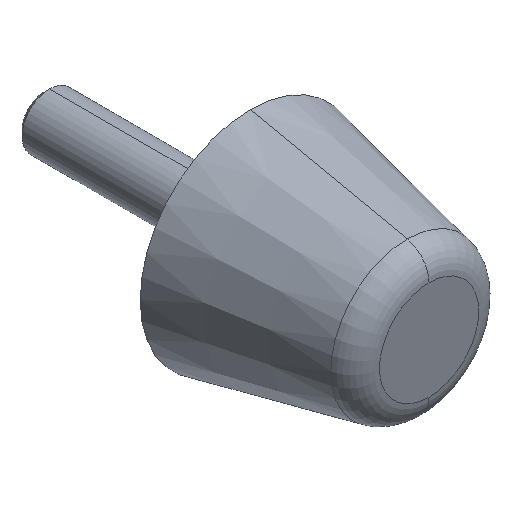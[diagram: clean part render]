
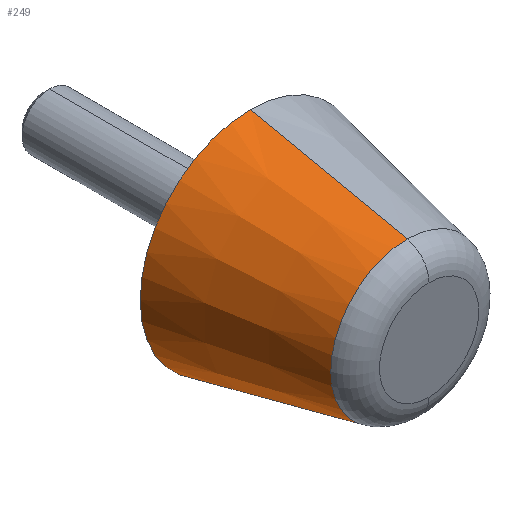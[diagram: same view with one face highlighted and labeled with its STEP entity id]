
A CAD part, isometric view. The second image highlights one B-rep face of the part: STEP entity #249.
In plain terms, the highlighted conical face has half-angle 12.05 degrees and reference radius 10.45 mm.
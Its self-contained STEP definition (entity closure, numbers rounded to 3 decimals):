
#12 = CARTESIAN_POINT ( 'NONE',  ( 0., 0., -10.45 ) ) ;
#53 = ORIENTED_EDGE ( 'NONE', *, *, #538, .T. ) ;
#57 = AXIS2_PLACEMENT_3D ( 'NONE', #237, #364, #488 ) ;
#69 = CARTESIAN_POINT ( 'NONE',  ( 0., 0., 10.45 ) ) ;
#75 = CARTESIAN_POINT ( 'NONE',  ( 0., 26., 16. ) ) ;
#82 = VECTOR ( 'NONE', #197, 1000. ) ;
#90 = CIRCLE ( 'NONE', #225, 16. ) ;
#96 = DIRECTION ( 'NONE',  ( 0., -1., 0. ) ) ;
#105 = ORIENTED_EDGE ( 'NONE', *, *, #456, .F. ) ;
#107 = VERTEX_POINT ( 'NONE', #345 ) ;
#123 = AXIS2_PLACEMENT_3D ( 'NONE', #470, #174, #227 ) ;
#128 = DIRECTION ( 'NONE',  ( 0., 0., -1. ) ) ;
#135 = EDGE_CURVE ( 'NONE', #305, #519, #90, .T. ) ;
#174 = DIRECTION ( 'NONE',  ( 0., 1., 0. ) ) ;
#197 = DIRECTION ( 'NONE',  ( 0., 0.978, 0.209 ) ) ;
#219 = CARTESIAN_POINT ( 'NONE',  ( 0., 26., -16. ) ) ;
#225 = AXIS2_PLACEMENT_3D ( 'NONE', #504, #96, #128 ) ;
#227 = DIRECTION ( 'NONE',  ( 0., 0., -1. ) ) ;
#230 = CONICAL_SURFACE ( 'NONE', #57, 10.45, 0.21 ) ;
#236 = VECTOR ( 'NONE', #428, 1000. ) ;
#237 = CARTESIAN_POINT ( 'NONE',  ( 0., 0., 0. ) ) ;
#249 = ADVANCED_FACE ( 'NONE', ( #450 ), #230, .T. ) ;
#305 = VERTEX_POINT ( 'NONE', #75 ) ;
#318 = VERTEX_POINT ( 'NONE', #377 ) ;
#321 = ORIENTED_EDGE ( 'NONE', *, *, #135, .T. ) ;
#345 = CARTESIAN_POINT ( 'NONE',  ( 0., 3.165, 11.126 ) ) ;
#352 = CIRCLE ( 'NONE', #123, 11.126 ) ;
#364 = DIRECTION ( 'NONE',  ( 0., 1., 0. ) ) ;
#377 = CARTESIAN_POINT ( 'NONE',  ( 0., 3.165, -11.126 ) ) ;
#426 = EDGE_LOOP ( 'NONE', ( #105, #466, #53, #321 ) ) ;
#428 = DIRECTION ( 'NONE',  ( 0., 0.978, -0.209 ) ) ;
#433 = LINE ( 'NONE', #12, #236 ) ;
#450 = FACE_OUTER_BOUND ( 'NONE', #426, .T. ) ;
#456 = EDGE_CURVE ( 'NONE', #318, #519, #433, .T. ) ;
#464 = EDGE_CURVE ( 'NONE', #318, #107, #352, .T. ) ;
#466 = ORIENTED_EDGE ( 'NONE', *, *, #464, .T. ) ;
#470 = CARTESIAN_POINT ( 'NONE',  ( 0., 3.165, 0. ) ) ;
#488 = DIRECTION ( 'NONE',  ( 0., 0., 1. ) ) ;
#504 = CARTESIAN_POINT ( 'NONE',  ( 0., 26., 0. ) ) ;
#519 = VERTEX_POINT ( 'NONE', #219 ) ;
#533 = LINE ( 'NONE', #69, #82 ) ;
#538 = EDGE_CURVE ( 'NONE', #107, #305, #533, .T. ) ;
